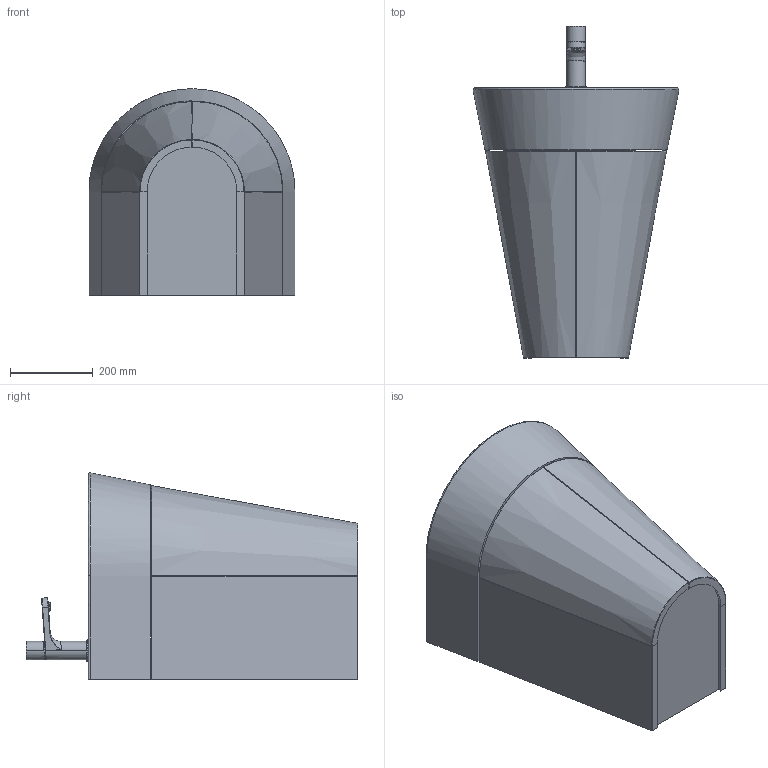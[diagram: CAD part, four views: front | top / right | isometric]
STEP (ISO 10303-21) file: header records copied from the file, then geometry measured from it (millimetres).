
FILE_DESCRIPTION (( 'STEP AP203' ), '1' );
FILE_NAME ('MBF 50 S.STEP', '2019-02-07T14:00:03', ( '' ), ( '' ), 'SwSTEP 2.0', 'SolidWorks 2019', '' );
FILE_SCHEMA (( 'CONFIG_CONTROL_DESIGN' ));
Length unit declared in the file: millimetre
Products named in the file (6): SIFONE LAVABO SOSPESO; FORMAmobile50ANTAC; MONOCOMANDO LAVABO AZ 21; MBF 50 S; FORMA50 LAVABO; FORMAmobile50SCOCCAC
Assembly tree (6 placements, depth 2):
  MBF 50 S
    FORMAmobile50SCOCCAC
    FORMAmobile50ANTAC  x2
    MONOCOMANDO LAVABO AZ 21
    SIFONE LAVABO SOSPESO
    FORMA50 LAVABO
Bounding box: 498.24 x 803 x 499.01 mm (x, y, z)
Volume: 25782414.6 mm3; surface area: 2971166.9 mm2
Topology: 6 solids, 6 shells, 359 faces, 887 edges, 551 vertices
Faces by surface type: cylinder 104, plane 92, bspline 89, torus 48, cone 17, sphere 9
Entity records: 23225 total; most frequent: CARTESIAN_POINT 14862, ORIENTED_EDGE 1720, DIRECTION 1530, EDGE_CURVE 860, AXIS2_PLACEMENT_3D 618, VERTEX_POINT 533, EDGE_LOOP 371, ADVANCED_FACE 349
